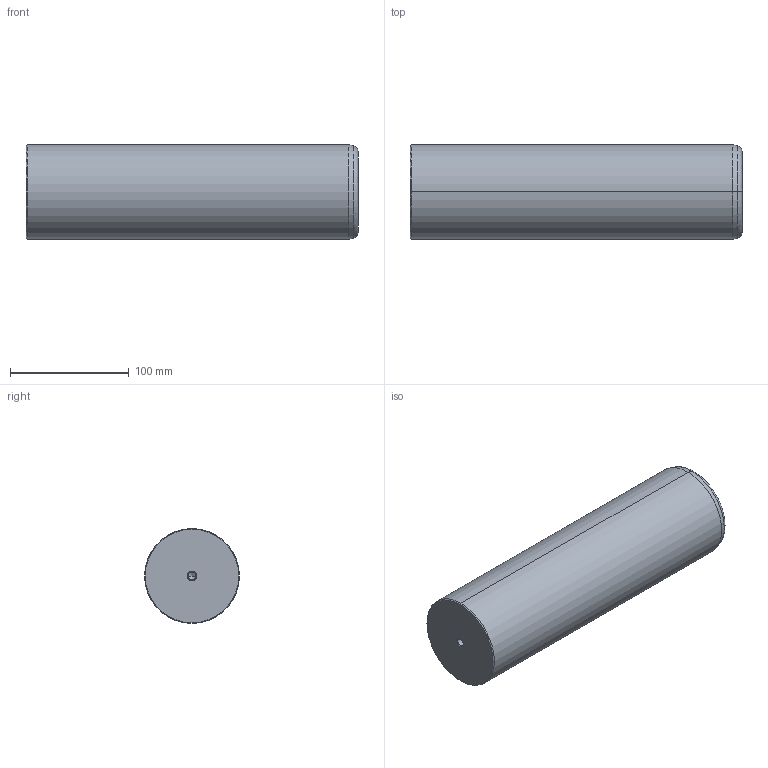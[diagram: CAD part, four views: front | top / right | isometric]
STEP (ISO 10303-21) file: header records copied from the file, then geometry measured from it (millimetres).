
FILE_DESCRIPTION(('CATIA V5 STEP Exchange'),'2;1');
FILE_NAME('C:\Users\Utente\Desktop\IO LAVORO\3D X SITO CF\X SITO\720\720-80x280.stp','2020-12-30T21:23:56+00:00',('none'),('none'),'CATIA Version 5 Release 20 GA (IN-10)','CATIA V5 STEP AP203','none');
FILE_SCHEMA(('CONFIG_CONTROL_DESIGN'));
Length unit declared in the file: millimetre
Products named in the file (1): 720-80x280
Bounding box: 280 x 80 x 80 mm (x, y, z)
Volume: 1402864.4 mm3; surface area: 80530.6 mm2
Topology: 1 solids, 1 shells, 22 faces, 56 edges, 34 vertices
Faces by surface type: cone 12, cylinder 6, plane 2, torus 2
Entity records: 755 total; most frequent: CARTESIAN_POINT 216, ORIENTED_EDGE 104, DIRECTION 89, EDGE_CURVE 52, AXIS2_PLACEMENT_3D 50, VERTEX_POINT 34, CIRCLE 27, EDGE_LOOP 24
